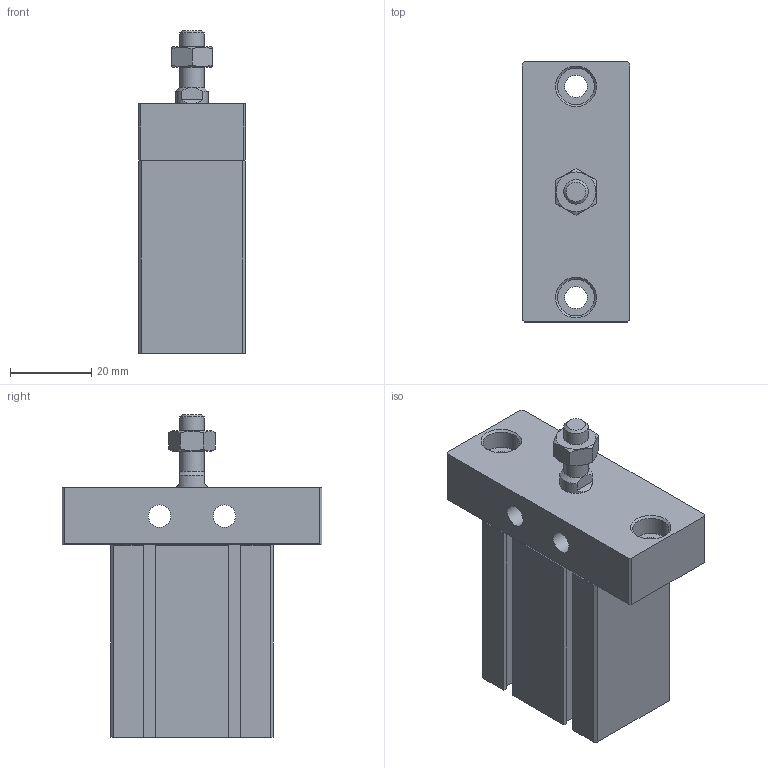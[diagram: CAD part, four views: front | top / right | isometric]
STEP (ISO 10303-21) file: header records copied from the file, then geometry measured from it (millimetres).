
FILE_DESCRIPTION((''),'2;1');
FILE_NAME('J:\3D電子目錄\氣缸\ND\ND\ND20-FB\ND20x20-FB.stp','2008-03-12T17:21:07',('66-2f-008'),(''),'Autodesk Inventor 11','Autodesk Inventor 11','');
FILE_SCHEMA(('AUTOMOTIVE_DESIGN { 1 0 10303 214 1 1 1 1 }'));
Length unit declared in the file: millimetre
Products named in the file (1): ND20-FB
Bounding box: 26.4 x 64 x 79.5 mm (x, y, z)
Volume: 66225.2 mm3; surface area: 17630.8 mm2
Topology: 2 solids, 2 shells, 128 faces, 330 edges, 211 vertices
Faces by surface type: plane 85, cylinder 16, bspline 14, cone 12, torus 1
Full cylindrical faces by diameter (mm): 1.5 x2, 5.5 x2, 6 x2, 9 x2, 13 x1, 21 x1
Entity records: 3810 total; most frequent: CARTESIAN_POINT 843, ORIENTED_EDGE 588, DIRECTION 572, EDGE_CURVE 294, VECTOR 214, LINE 214, VERTEX_POINT 206, EDGE_LOOP 180
